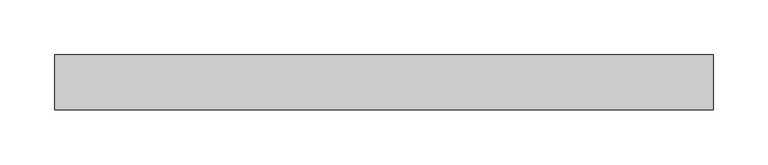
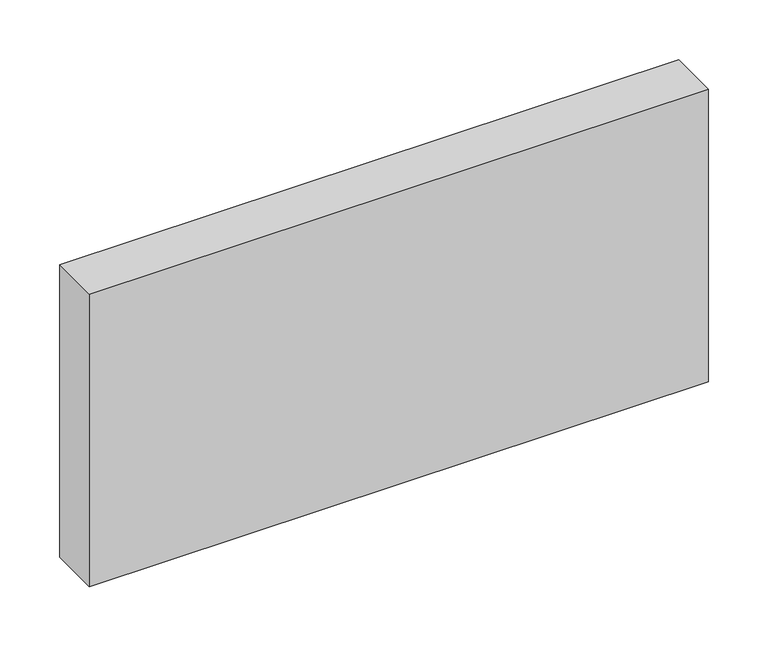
"""IFC4 building model written with IfcOpenShell, lengths in millimetres: proxy geometry, Módulo de Vedação de Concreto Celular - Celucon : MVCC 05x30x60cm (L x A x C)."""

from ifc_helpers import new_model, si_unit, origin, origin_with_axes, place, context, project, spatial, polyline, outline, extrude, source, transform, mapped, element, save


def generic_models_c22f164a(model_context):
    return source(origin(), model_context, "Body", "SweptSolid", [
        extrude(outline(polyline([(300.0, 25.0), (300.0, -25.0), (-300.0, -25.0), (-300.0, 25.0), (300.0, 25.0)])), origin_with_axes(), (0.0, 0.0, 1.0), 300.0),
    ])


if __name__ == "__main__":
    model = new_model("IFC4")
    model_context = context("Model", 3, world=origin())
    ifc_project = project(units=[si_unit("LENGTHUNIT", "METRE", prefix="MILLI")], contexts=[model_context])
    site = spatial("IfcSite", under=ifc_project)
    building = spatial("IfcBuilding", under=site)
    placement = place(None, origin())
    generic_models_shape = generic_models_c22f164a(model_context)
    element("IfcBuildingElementProxy", 1, Name="Módulo de Vedação de Concreto Celular - Celucon : MVCC 05x30x60cm (L x A x C)", ObjectType="Módulo de Vedação de Concreto Celular - Celucon : MVCC 05x30x60cm (L x A x C)", at=placement, inside=building, context=model_context, shape_type="MappedRepresentation", body=[
        mapped(generic_models_shape, transform((0.0, 0.0, 0.0), x_axis=(1.0, 0.0, 0.0), y_axis=(0.0, 1.0, 0.0), z_axis=(0.0, 0.0, 1.0))),
    ])
    save(model, "model.ifc")
